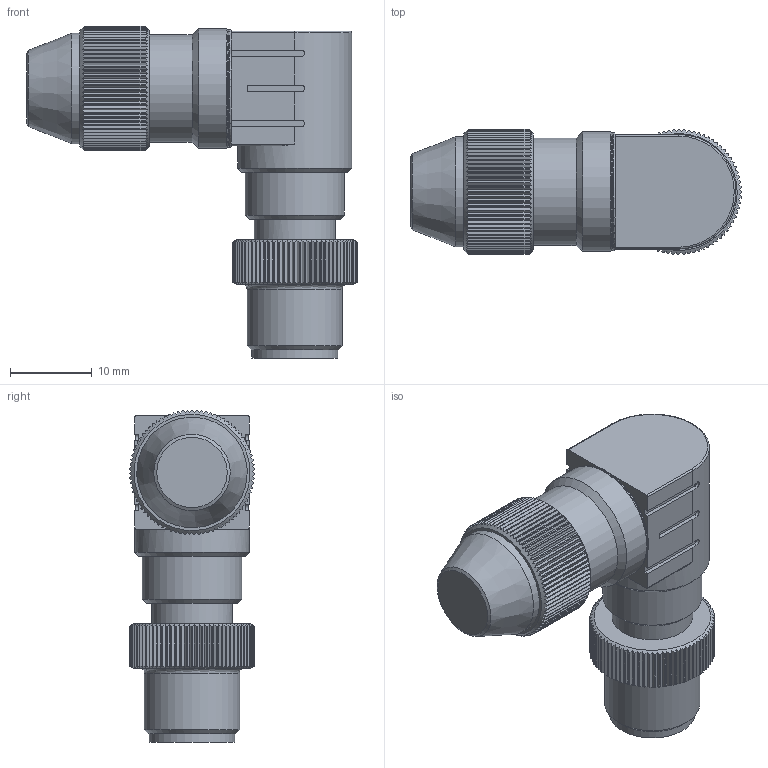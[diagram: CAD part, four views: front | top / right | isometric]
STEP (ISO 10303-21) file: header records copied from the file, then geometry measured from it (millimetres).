
FILE_DESCRIPTION((''),'2;1');
FILE_NAME('C:\TurckZip\BS_8246.stp','2010-01-08T10:19:46',('IKOROL'),(''),'Autodesk Inventor 2009','Autodesk Inventor 2009','');
FILE_SCHEMA(('CONFIG_CONTROL_DESIGN'));
Length unit declared in the file: millimetre
Products named in the file (1): Part1
Bounding box: 40.48 x 15.32 x 40.65 mm (x, y, z)
Volume: 9018.9 mm3; surface area: 4078.4 mm2
Topology: 1 solids, 1 shells, 611 faces, 1745 edges, 1157 vertices
Faces by surface type: plane 389, cylinder 206, cone 11, torus 3, bspline 2
Full cylindrical faces by diameter (mm): 1 x4, 1.2 x4, 2 x4, 8.3 x1, 9.9 x1, 10.5 x1, 11.684 x1, 12.15 x1, 13.2 x1, 13.527 x1, 14 x1, 14.443 x1, 14.7 x1
Entity records: 19863 total; most frequent: CARTESIAN_POINT 4971, ORIENTED_EDGE 3398, DIRECTION 2715, EDGE_CURVE 1699, VERTEX_POINT 1147, AXIS2_PLACEMENT_3D 1052, EDGE_LOOP 668, VECTOR 611
